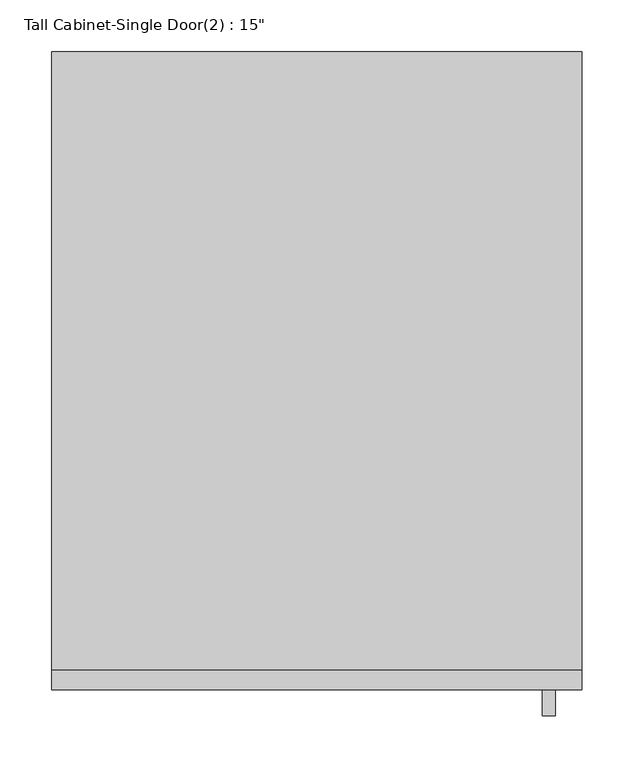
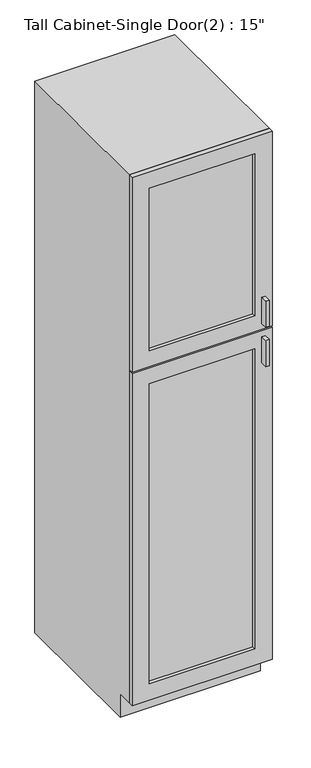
"""IFC4 building model written with IfcOpenShell, lengths in millimetres: furniture geometry."""

from ifc_helpers import new_model, si_unit, frame, origin, place, context, project, spatial, polyline, outline, extrude, faceted_brep, source, transform, mapped, element, save


def furniture_af66c6f2(model_context):
    return source(origin(), model_context, "Body", "SolidModel", [
        faceted_brep([(274.9136428, -596.9, 90.4875), (274.9136428, -596.9, 2133.6), (-237.438233, -596.9, 2133.6), (-237.438233, -596.9, 90.4875), (255.8636428, -596.9, 2114.55), (255.8636428, -596.9, 109.5375), (-218.388233, -596.9, 109.5375), (-218.388233, -596.9, 2114.55), (-237.438233, 0.0, 2133.6), (274.9136428, 0.0, 2133.6), (274.9136428, 0.0, 0.0), (-237.438233, 0.0, 0.0), (274.9136428, -539.75, 90.4875), (274.9136428, -539.75, 0.0), (-237.438233, -539.75, 0.0), (-237.438233, -539.75, 90.4875), (255.8636428, -19.05, 2114.55), (255.8636428, -19.05, 109.5375), (-218.388233, -19.05, 109.5375), (-218.388233, -19.05, 2114.55)], [[[0, 1, 2, 3], [4, 5, 6, 7]], [[8, 9, 10, 11]], [[1, 0, 12, 13, 10, 9]], [[2, 1, 9, 8]], [[3, 2, 8, 11, 14, 15]], [[0, 3, 15, 12]], [[5, 4, 16, 17]], [[6, 5, 17, 18]], [[7, 6, 18, 19]], [[4, 7, 19, 16]], [[10, 13, 14, 11]], [[14, 13, 12, 15]], [[17, 16, 19, 18]]]),
        extrude(outline(polyline([(249.5136428, -641.35), (236.9814112, -641.35), (236.9814112, -615.95), (249.5136428, -615.95), (249.5136428, -641.35)])), frame((0.0, 0.0, 1403.5480367), z_axis=(0.0, 0.0, 1.0), x_axis=(1.0, 0.0, 0.0)), (0.0, 0.0, 1.0), 101.6),
        extrude(outline(polyline([(249.5136428, -641.35), (236.9814112, -641.35), (236.9814112, -615.95), (249.5136428, -615.95), (249.5136428, -641.35)])), frame((0.0, 0.0, 1251.1480367), z_axis=(0.0, 0.0, 1.0), x_axis=(1.0, 0.0, 0.0)), (0.0, 0.0, 1.0), 101.6),
        extrude(outline(polyline([(211.4136428, -603.25), (-173.938233, -603.25), (-173.938233, -596.9), (211.4136428, -596.9), (211.4136428, -603.25)])), frame((0.0, 0.0, 1441.6480367), z_axis=(0.0, 0.0, 1.0), x_axis=(1.0, 0.0, 0.0)), (0.0, 0.0, 1.0), 628.4519633),
        extrude(outline(polyline([(211.4136428, -603.25), (-173.938233, -603.25), (-173.938233, -596.9), (211.4136428, -596.9), (211.4136428, -603.25)])), frame((0.0, 0.0, 153.9875), z_axis=(0.0, 0.0, 1.0), x_axis=(1.0, 0.0, 0.0)), (0.0, 0.0, 1.0), 1160.6605367),
        extrude(outline(polyline([(2133.6, 274.9136428), (2133.6, -237.438233), (1381.3230367, -237.438233), (1381.3230367, 274.9136428), (2133.6, 274.9136428)]), holes=[polyline([(2070.1, 211.4136428), (1441.6480367, 211.4136428), (1441.6480367, -173.938233), (2070.1, -173.938233), (2070.1, 211.4136428)])]), frame((0.0, -615.95, 0.0), z_axis=(0.0, 1.0, 0.0), x_axis=(0.0, 0.0, 1.0)), (0.0, 0.0, 1.0), 19.05),
        extrude(outline(polyline([(90.4875, 274.9136428), (1374.9730367, 274.9136428), (1374.9730367, -237.438233), (90.4875, -237.438233), (90.4875, 274.9136428)]), holes=[polyline([(1314.6480367, 211.4136428), (153.9875, 211.4136428), (153.9875, -173.938233), (1314.6480367, -173.938233), (1314.6480367, 211.4136428)])]), frame((0.0, -615.95, 0.0), z_axis=(0.0, 1.0, 0.0), x_axis=(0.0, 0.0, 1.0)), (0.0, 0.0, 1.0), 19.05),
    ])


if __name__ == "__main__":
    model = new_model("IFC4")
    model_context = context("Model", 3, world=origin())
    ifc_project = project(units=[si_unit("LENGTHUNIT", "METRE", prefix="MILLI")], contexts=[model_context])
    site = spatial("IfcSite", under=ifc_project)
    building = spatial("IfcBuilding", under=site)
    placement = place(None, origin())
    furniture_shape = furniture_af66c6f2(model_context)
    element("IfcFurniture", 1, ObjectType="Tall Cabinet-Single Door(2) : 15\"", at=placement, inside=building, context=model_context, shape_type="MappedRepresentation", body=[
        mapped(furniture_shape, transform((0.0, 0.0, 0.0), x_axis=(1.0, 0.0, 0.0), y_axis=(0.0, 1.0, 0.0), z_axis=(0.0, 0.0, 1.0))),
    ])
    save(model, "model.ifc")
